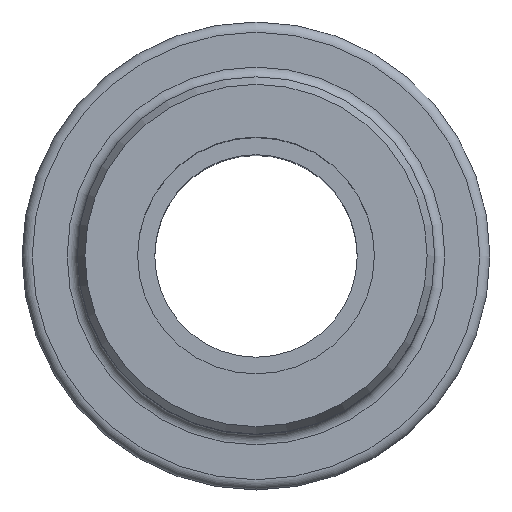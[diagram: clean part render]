
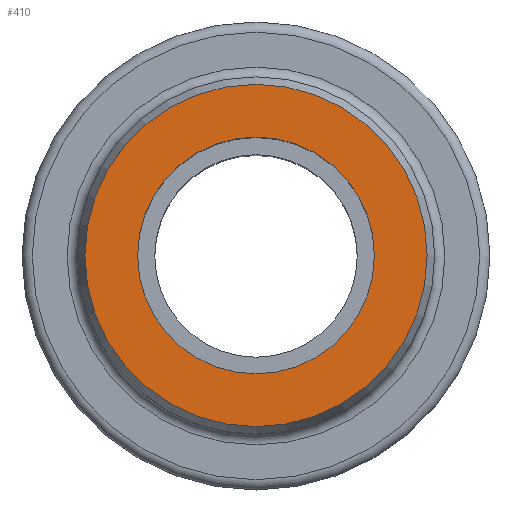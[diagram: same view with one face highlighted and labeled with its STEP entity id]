
A CAD part, top view. The second image highlights one B-rep face of the part: STEP entity #410.
In plain terms, the highlighted planar face has unit normal (0, 0, 1).
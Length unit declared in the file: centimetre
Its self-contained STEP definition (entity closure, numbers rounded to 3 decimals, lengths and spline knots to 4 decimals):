
#121=PLANE('',#467);
#144=VERTEX_POINT('',#631);
#149=VERTEX_POINT('',#645);
#173=CIRCLE('',#456,2.5547);
#178=CIRCLE('',#465,1.7672);
#202=EDGE_CURVE('',#144,#144,#173,.T.);
#207=EDGE_CURVE('',#149,#149,#178,.T.);
#263=ORIENTED_EDGE('',*,*,#202,.T.);
#264=ORIENTED_EDGE('',*,*,#207,.T.);
#321=EDGE_LOOP('',(#263));
#322=EDGE_LOOP('',(#264));
#379=FACE_BOUND('',#321,.T.);
#380=FACE_BOUND('',#322,.T.);
#410=ADVANCED_FACE('',(#379,#380),#121,.T.);
#456=AXIS2_PLACEMENT_3D('',#630,#544,#545);
#465=AXIS2_PLACEMENT_3D('',#644,#559,#560);
#467=AXIS2_PLACEMENT_3D('',#648,#563,$);
#544=DIRECTION('',(0.,0.,1.));
#545=DIRECTION('',(0.,2.555,0.));
#559=DIRECTION('',(0.,0.,-1.));
#560=DIRECTION('',(0.,1.767,0.));
#563=DIRECTION('',(0.,0.,1.));
#630=CARTESIAN_POINT('',(0.,0.,0.));
#631=CARTESIAN_POINT('',(0.,-2.5547,0.));
#644=CARTESIAN_POINT('',(0.,0.,0.));
#645=CARTESIAN_POINT('',(0.,1.7672,0.));
#648=CARTESIAN_POINT('',(0.,2.2171,0.));
